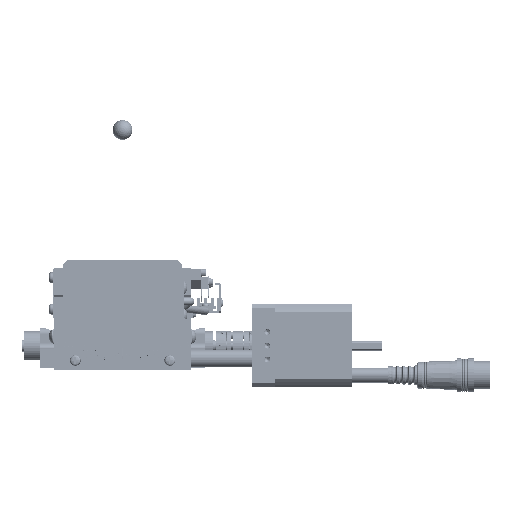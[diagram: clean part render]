
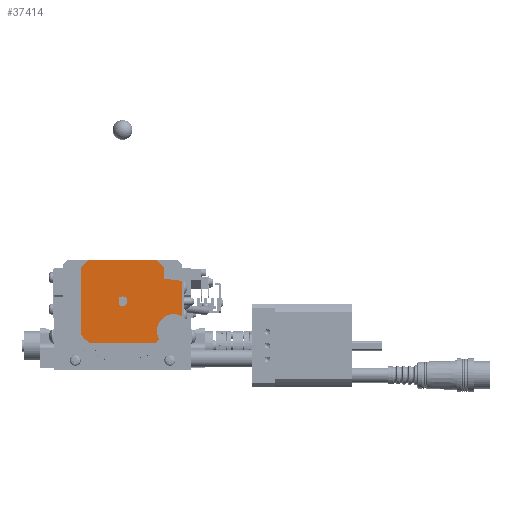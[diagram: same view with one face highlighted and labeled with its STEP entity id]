
A CAD part, front view. The second image highlights one B-rep face of the part: STEP entity #37414.
In plain terms, the highlighted planar face has unit normal (0, -1, 0) as drawn and (1, 0, 0) by its records, which use the part's own axes.
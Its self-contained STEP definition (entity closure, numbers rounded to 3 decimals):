
#813 = CARTESIAN_POINT ( 'NONE',  ( 16.28, 80.525, 12.874 ) ) ;
#1850 = VECTOR ( 'NONE', #35196, 1000. ) ;
#1961 = DIRECTION ( 'NONE',  ( 0., -0.778, 0.629 ) ) ;
#3470 = AXIS2_PLACEMENT_3D ( 'NONE', #47648, #74448, #139727 ) ;
#5207 = CIRCLE ( 'NONE', #132670, 27. ) ;
#5727 = LINE ( 'NONE', #138151, #60949 ) ;
#7914 = EDGE_CURVE ( 'NONE', #155552, #97430, #42868, .T. ) ;
#7923 = EDGE_CURVE ( 'NONE', #64034, #83341, #77594, .T. ) ;
#8073 = VECTOR ( 'NONE', #124348, 1000. ) ;
#8533 = DIRECTION ( 'NONE',  ( -1., 0., 0. ) ) ;
#8678 = ORIENTED_EDGE ( 'NONE', *, *, #109464, .F. ) ;
#8793 = FACE_BOUND ( 'NONE', #165114, .T. ) ;
#9303 = VECTOR ( 'NONE', #52871, 1000. ) ;
#9506 = CARTESIAN_POINT ( 'NONE',  ( 16.28, 82.525, 11.374 ) ) ;
#11031 = LINE ( 'NONE', #120208, #125727 ) ;
#11095 = EDGE_CURVE ( 'NONE', #102283, #64034, #5207, .T. ) ;
#12362 = VECTOR ( 'NONE', #51679, 1000. ) ;
#13380 = LINE ( 'NONE', #813, #9303 ) ;
#15123 = DIRECTION ( 'NONE',  ( -1., 0., 0. ) ) ;
#15280 = CIRCLE ( 'NONE', #96299, 27. ) ;
#18329 = EDGE_CURVE ( 'NONE', #115277, #92429, #156669, .T. ) ;
#24949 = CIRCLE ( 'NONE', #3470, 0.5 ) ;
#25087 = ORIENTED_EDGE ( 'NONE', *, *, #95389, .T. ) ;
#25318 = VERTEX_POINT ( 'NONE', #84890 ) ;
#28357 = CIRCLE ( 'NONE', #125542, 2.5 ) ;
#29258 = DIRECTION ( 'NONE',  ( 0., 0., -1. ) ) ;
#30652 = CARTESIAN_POINT ( 'NONE',  ( 16.28, 103.525, 28.344 ) ) ;
#31606 = ORIENTED_EDGE ( 'NONE', *, *, #109956, .F. ) ;
#32683 = CARTESIAN_POINT ( 'NONE',  ( 16.28, 112.025, 21.326 ) ) ;
#33847 = CARTESIAN_POINT ( 'NONE',  ( 16.28, 99.496, 32.374 ) ) ;
#35196 = DIRECTION ( 'NONE',  ( 0., 0., -1. ) ) ;
#36640 = LINE ( 'NONE', #88374, #1850 ) ;
#36941 = VECTOR ( 'NONE', #107630, 1000. ) ;
#37414 = ADVANCED_FACE ( 'NONE', ( #113137, #8793 ), #86833, .F. ) ;
#42868 = LINE ( 'NONE', #72778, #161544 ) ;
#43034 = DIRECTION ( 'NONE',  ( 0., 0.122, 0.993 ) ) ;
#44029 = DIRECTION ( 'NONE',  ( -1., 0., 0. ) ) ;
#45336 = CIRCLE ( 'NONE', #69760, 27. ) ;
#45560 = ORIENTED_EDGE ( 'NONE', *, *, #102431, .F. ) ;
#45608 = CIRCLE ( 'NONE', #49029, 0.5 ) ;
#45899 = VERTEX_POINT ( 'NONE', #30652 ) ;
#47417 = CARTESIAN_POINT ( 'NONE',  ( 16.28, 136.577, 60.925 ) ) ;
#47648 = CARTESIAN_POINT ( 'NONE',  ( 16.28, 112.025, 1.421 ) ) ;
#47720 = VERTEX_POINT ( 'NONE', #149876 ) ;
#48128 = DIRECTION ( 'NONE',  ( 0., 0.993, -0.122 ) ) ;
#49029 = AXIS2_PLACEMENT_3D ( 'NONE', #32683, #135658, #43034 ) ;
#51679 = DIRECTION ( 'NONE',  ( 0., 0., 1. ) ) ;
#52871 = DIRECTION ( 'NONE',  ( 0., 0., -1. ) ) ;
#57428 = LINE ( 'NONE', #122536, #36941 ) ;
#59062 = ORIENTED_EDGE ( 'NONE', *, *, #104587, .F. ) ;
#60113 = CARTESIAN_POINT ( 'NONE',  ( 16.28, 103.525, 22.874 ) ) ;
#60859 = EDGE_CURVE ( 'NONE', #25318, #82925, #13380, .T. ) ;
#60949 = VECTOR ( 'NONE', #84906, 1000. ) ;
#64034 = VERTEX_POINT ( 'NONE', #104190 ) ;
#64264 = CARTESIAN_POINT ( 'NONE',  ( 16.28, 65.555, 32.374 ) ) ;
#64951 = ORIENTED_EDGE ( 'NONE', *, *, #60859, .F. ) ;
#69036 = CARTESIAN_POINT ( 'NONE',  ( 16.28, 103.525, 22.874 ) ) ;
#69760 = AXIS2_PLACEMENT_3D ( 'NONE', #9506, #153068, #127329 ) ;
#70226 = CARTESIAN_POINT ( 'NONE',  ( 16.28, 82.525, 11.374 ) ) ;
#72577 = VERTEX_POINT ( 'NONE', #156449 ) ;
#72778 = CARTESIAN_POINT ( 'NONE',  ( 16.28, 112.086, 0.925 ) ) ;
#74081 = DIRECTION ( 'NONE',  ( 0., -0.8, 0.6 ) ) ;
#74216 = DIRECTION ( 'NONE',  ( 0., 0., -1. ) ) ;
#74448 = DIRECTION ( 'NONE',  ( -1., 0., 0. ) ) ;
#77451 = VERTEX_POINT ( 'NONE', #127003 ) ;
#77594 = LINE ( 'NONE', #151796, #8073 ) ;
#79058 = CARTESIAN_POINT ( 'NONE',  ( 16.28, 80.525, 9.874 ) ) ;
#82925 = VERTEX_POINT ( 'NONE', #79058 ) ;
#83341 = VERTEX_POINT ( 'NONE', #138046 ) ;
#84635 = ORIENTED_EDGE ( 'NONE', *, *, #164989, .F. ) ;
#84890 = CARTESIAN_POINT ( 'NONE',  ( 16.28, 80.525, 12.874 ) ) ;
#84906 = DIRECTION ( 'NONE',  ( 0., 1., 0. ) ) ;
#86525 = DIRECTION ( 'NONE',  ( 0., -0.993, -0.122 ) ) ;
#86833 = PLANE ( 'NONE',  #147112 ) ;
#87539 = CARTESIAN_POINT ( 'NONE',  ( 16.28, 82.525, 11.374 ) ) ;
#88374 = CARTESIAN_POINT ( 'NONE',  ( 16.28, 112.525, 21.326 ) ) ;
#89026 = ORIENTED_EDGE ( 'NONE', *, *, #141514, .F. ) ;
#90054 = EDGE_CURVE ( 'NONE', #77451, #155552, #24949, .T. ) ;
#92429 = VERTEX_POINT ( 'NONE', #64264 ) ;
#92807 = LINE ( 'NONE', #60113, #144068 ) ;
#95389 = EDGE_CURVE ( 'NONE', #25318, #82925, #28357, .T. ) ;
#95452 = CARTESIAN_POINT ( 'NONE',  ( 16.28, 112.086, 0.925 ) ) ;
#96299 = AXIS2_PLACEMENT_3D ( 'NONE', #87539, #106883, #145868 ) ;
#97430 = VERTEX_POINT ( 'NONE', #126671 ) ;
#97547 = ORIENTED_EDGE ( 'NONE', *, *, #7914, .F. ) ;
#98697 = CARTESIAN_POINT ( 'NONE',  ( 16.28, 61.525, 28.344 ) ) ;
#100823 = VERTEX_POINT ( 'NONE', #33847 ) ;
#102283 = VERTEX_POINT ( 'NONE', #145489 ) ;
#102431 = EDGE_CURVE ( 'NONE', #97430, #102283, #57428, .T. ) ;
#103050 = ORIENTED_EDGE ( 'NONE', *, *, #7923, .F. ) ;
#104190 = CARTESIAN_POINT ( 'NONE',  ( 16.28, 99.496, -9.626 ) ) ;
#104587 = EDGE_CURVE ( 'NONE', #83341, #144831, #45336, .T. ) ;
#106883 = DIRECTION ( 'NONE',  ( -1., 0., 0. ) ) ;
#107630 = DIRECTION ( 'NONE',  ( 0., 0., -1. ) ) ;
#109464 = EDGE_CURVE ( 'NONE', #100823, #45899, #15280, .T. ) ;
#109956 = EDGE_CURVE ( 'NONE', #45899, #122476, #11031, .T. ) ;
#113137 = FACE_OUTER_BOUND ( 'NONE', #122378, .T. ) ;
#113585 = DIRECTION ( 'NONE',  ( -1., 0., 0. ) ) ;
#113928 = EDGE_CURVE ( 'NONE', #47720, #77451, #36640, .T. ) ;
#115277 = VERTEX_POINT ( 'NONE', #98697 ) ;
#115896 = ORIENTED_EDGE ( 'NONE', *, *, #18329, .F. ) ;
#116731 = LINE ( 'NONE', #168974, #12362 ) ;
#117423 = CARTESIAN_POINT ( 'NONE',  ( 16.28, 61.525, -5.597 ) ) ;
#120208 = CARTESIAN_POINT ( 'NONE',  ( 16.28, 103.525, 28.344 ) ) ;
#122378 = EDGE_LOOP ( 'NONE', ( #115896, #167259, #59062, #103050, #124613, #45560, #97547, #128442, #156254, #84635, #89026, #31606, #8678, #166501 ) ) ;
#122476 = VERTEX_POINT ( 'NONE', #69036 ) ;
#122536 = CARTESIAN_POINT ( 'NONE',  ( 16.28, 103.525, -0.126 ) ) ;
#124348 = DIRECTION ( 'NONE',  ( 0., -1., 0. ) ) ;
#124613 = ORIENTED_EDGE ( 'NONE', *, *, #11095, .F. ) ;
#125542 = AXIS2_PLACEMENT_3D ( 'NONE', #126191, #113585, #74081 ) ;
#125727 = VECTOR ( 'NONE', #29258, 1000. ) ;
#126191 = CARTESIAN_POINT ( 'NONE',  ( 16.28, 82.525, 11.374 ) ) ;
#126671 = CARTESIAN_POINT ( 'NONE',  ( 16.28, 103.525, -0.126 ) ) ;
#127003 = CARTESIAN_POINT ( 'NONE',  ( 16.28, 112.525, 1.421 ) ) ;
#127329 = DIRECTION ( 'NONE',  ( 0., -0.629, -0.778 ) ) ;
#128442 = ORIENTED_EDGE ( 'NONE', *, *, #90054, .F. ) ;
#128887 = AXIS2_PLACEMENT_3D ( 'NONE', #158707, #15123, #1961 ) ;
#132670 = AXIS2_PLACEMENT_3D ( 'NONE', #70226, #44029, #149266 ) ;
#135658 = DIRECTION ( 'NONE',  ( -1., 0., 0. ) ) ;
#138046 = CARTESIAN_POINT ( 'NONE',  ( 16.28, 65.555, -9.626 ) ) ;
#138151 = CARTESIAN_POINT ( 'NONE',  ( 16.28, 65.555, 32.374 ) ) ;
#139727 = DIRECTION ( 'NONE',  ( 0., 1., 0. ) ) ;
#141514 = EDGE_CURVE ( 'NONE', #122476, #72577, #92807, .T. ) ;
#144068 = VECTOR ( 'NONE', #48128, 1000. ) ;
#144529 = EDGE_CURVE ( 'NONE', #92429, #100823, #5727, .T. ) ;
#144831 = VERTEX_POINT ( 'NONE', #117423 ) ;
#145489 = CARTESIAN_POINT ( 'NONE',  ( 16.28, 103.525, -5.597 ) ) ;
#145868 = DIRECTION ( 'NONE',  ( 0., 0.629, 0.778 ) ) ;
#147112 = AXIS2_PLACEMENT_3D ( 'NONE', #47417, #8533, #74216 ) ;
#149266 = DIRECTION ( 'NONE',  ( 0., 0.778, -0.629 ) ) ;
#149876 = CARTESIAN_POINT ( 'NONE',  ( 16.28, 112.525, 21.326 ) ) ;
#151796 = CARTESIAN_POINT ( 'NONE',  ( 16.28, 99.496, -9.626 ) ) ;
#153068 = DIRECTION ( 'NONE',  ( -1., 0., 0. ) ) ;
#155552 = VERTEX_POINT ( 'NONE', #95452 ) ;
#156254 = ORIENTED_EDGE ( 'NONE', *, *, #113928, .F. ) ;
#156449 = CARTESIAN_POINT ( 'NONE',  ( 16.28, 112.086, 21.822 ) ) ;
#156588 = EDGE_CURVE ( 'NONE', #144831, #115277, #116731, .T. ) ;
#156669 = CIRCLE ( 'NONE', #128887, 27. ) ;
#158707 = CARTESIAN_POINT ( 'NONE',  ( 16.28, 82.525, 11.374 ) ) ;
#161544 = VECTOR ( 'NONE', #86525, 1000. ) ;
#164989 = EDGE_CURVE ( 'NONE', #72577, #47720, #45608, .T. ) ;
#165114 = EDGE_LOOP ( 'NONE', ( #25087, #64951 ) ) ;
#166501 = ORIENTED_EDGE ( 'NONE', *, *, #144529, .F. ) ;
#167259 = ORIENTED_EDGE ( 'NONE', *, *, #156588, .F. ) ;
#168974 = CARTESIAN_POINT ( 'NONE',  ( 16.28, 61.525, -5.597 ) ) ;
